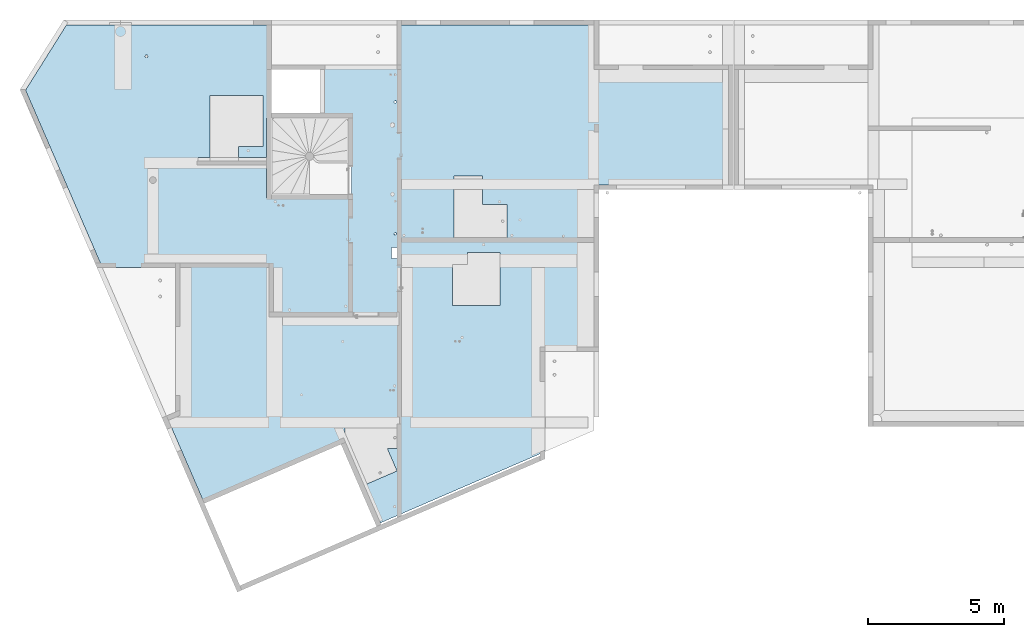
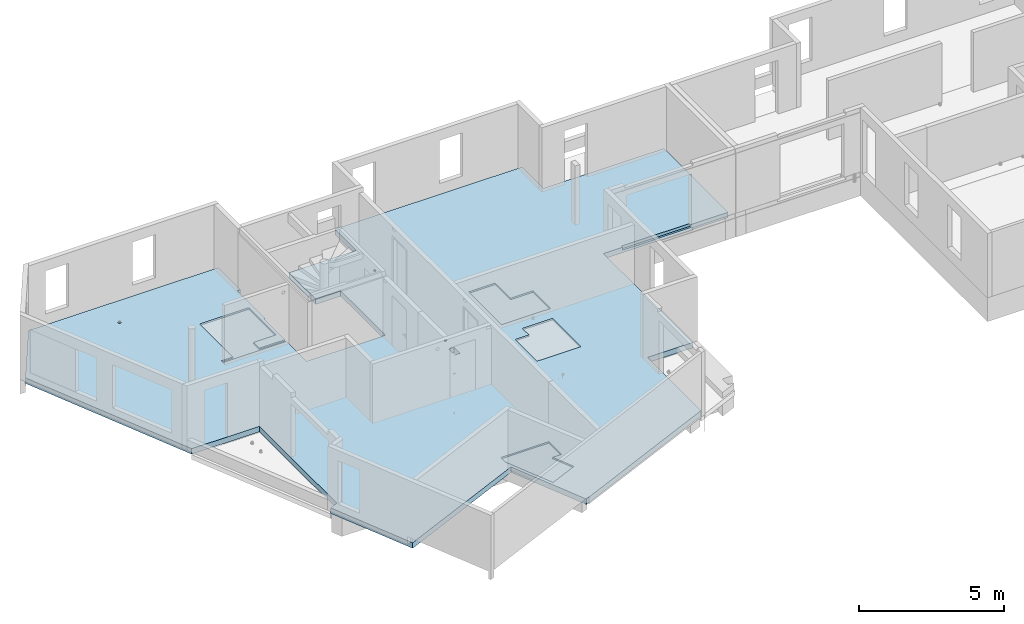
# One storey, part 24 of 34: 1 slab.
"""IFC2X3 building model written with IfcOpenShell, lengths in centimetres."""

from ifc_helpers import new_model, entity, si_unit, converted_unit, derived_unit, direction, frame, origin, place, context, subcontext, project, spatial, faceted_brep, material, element, save


model = new_model("IFC2X3")

# Units and contexts
model_context = context("Model", 3, precision=0.001, world=origin(), true_north=direction((6.12303176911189e-17, 1.0)))
body_context = subcontext(model_context, "Body", "Model", "MODEL_VIEW")
ifc_project = project(units=[si_unit("LENGTHUNIT", "METRE", prefix="CENTI"), si_unit("AREAUNIT", "SQUARE_METRE"), si_unit("VOLUMEUNIT", "CUBIC_METRE"), converted_unit("PLANEANGLEUNIT", "DEGREE", entity("IfcRatioMeasure", 0.0174532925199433), si_unit("PLANEANGLEUNIT", "RADIAN"), dimensions=[0, 0, 0, 0, 0, 0, 0]), si_unit("MASSUNIT", "GRAM", prefix="KILO"), derived_unit("MASSDENSITYUNIT", [(si_unit("MASSUNIT", "GRAM", prefix="KILO"), 1), (si_unit("LENGTHUNIT", "METRE"), -3)]), si_unit("TIMEUNIT", "SECOND"), si_unit("FREQUENCYUNIT", "HERTZ"), si_unit("THERMODYNAMICTEMPERATUREUNIT", "DEGREE_CELSIUS"), derived_unit("THERMALTRANSMITTANCEUNIT", [(si_unit("MASSUNIT", "GRAM", prefix="KILO"), 1), (si_unit("THERMODYNAMICTEMPERATUREUNIT", "KELVIN"), -1), (si_unit("TIMEUNIT", "SECOND"), -3)]), derived_unit("VOLUMETRICFLOWRATEUNIT", [(si_unit("LENGTHUNIT", "METRE"), 3), (si_unit("TIMEUNIT", "SECOND"), -1)]), si_unit("ELECTRICCURRENTUNIT", "AMPERE"), si_unit("ELECTRICVOLTAGEUNIT", "VOLT"), si_unit("POWERUNIT", "WATT"), si_unit("FORCEUNIT", "NEWTON"), si_unit("ILLUMINANCEUNIT", "LUX"), si_unit("LUMINOUSFLUXUNIT", "LUMEN"), si_unit("LUMINOUSINTENSITYUNIT", "CANDELA"), derived_unit("USERDEFINED", [(si_unit("MASSUNIT", "GRAM", prefix="KILO"), -1), (si_unit("LENGTHUNIT", "METRE"), -2), (si_unit("TIMEUNIT", "SECOND"), 3), (si_unit("LUMINOUSFLUXUNIT", "LUMEN"), 1)]), derived_unit("LINEARVELOCITYUNIT", [(si_unit("LENGTHUNIT", "METRE"), 1), (si_unit("TIMEUNIT", "SECOND"), -1)]), si_unit("PRESSUREUNIT", "PASCAL"), derived_unit("USERDEFINED", [(si_unit("LENGTHUNIT", "METRE"), -2), (si_unit("MASSUNIT", "GRAM", prefix="KILO"), 1), (si_unit("TIMEUNIT", "SECOND"), -2)])], contexts=[model_context])

# Site, building, storey
site_placement = place(None, origin())
site = spatial("IfcSite", under=ifc_project, at=site_placement, Name="Default", CompositionType="ELEMENT")
building_placement = place(site_placement, origin())
building = spatial("IfcBuilding", under=site, at=building_placement, Name="CAGE 03", CompositionType="ELEMENT")
storey_placement = place(building_placement, frame((0.0, 0.0, 340.0)))
storey = spatial("IfcBuildingStorey", under=building, at=storey_placement, Name="R+1", CompositionType="ELEMENT", Elevation=340.0)

# Slab
ifc_material = material(Name="Béton, C25/30")
slab_placement = place(storey_placement, origin())
element("IfcSlab", 1, at=slab_placement, inside=storey, material=ifc_material, Name="Sol:Dalle Béton - 23 cm", ObjectType="Sol:Dalle Béton - 23 cm", PredefinedType="FLOOR", context=body_context, shape_type="Brep", body=[
    faceted_brep([(3447.36582014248, 4787.16066607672, -5.0), (3447.36582014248, 4787.16066607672, 0.0), (3402.36582014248, 4787.16066607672, 0.0), (3402.36582014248, 4787.16066607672, -5.0), (3654.36582014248, 4787.16066607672, -5.0), (3654.36582014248, 4787.16066607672, 0.0), (3552.36582014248, 4787.16066607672, 0.0), (3552.36582014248, 4787.16066607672, -5.0), (3447.36582014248, 4775.16066607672, -5.0), (3402.36582014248, 4775.16066607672, -5.0), (3654.36582014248, 4775.16066607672, -5.0), (3552.36582014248, 4775.16066607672, -5.0), (4838.36582014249, 5275.66066607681, -23.0), (4878.36582014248, 5275.66066607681, -23.0), (4878.36582014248, 5128.66066607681, -23.0), (4860.36582014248, 4686.66066607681, -23.0), (4370.36582014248, 5275.66066607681, -23.0), (5333.36582014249, 5128.66066607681, -23.0), (5355.36582014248, 4891.66066607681, -23.0), (4134.36582014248, 5128.66066607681, -23.0), (4152.36582014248, 5275.66066607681, -23.0), (4352.36582014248, 5275.66066607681, -23.0), (4143.36582014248, 5275.66066607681, -23.0), (4134.36582014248, 5275.66066607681, -23.0), (4134.36582014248, 4991.66066607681, -23.0), (4127.64195500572, 4997.02276959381, -23.0), (4126.57292128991, 4995.68224371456, -23.0), (4133.52533700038, 4992.33092901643, -23.0), (4134.36582014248, 4506.16066607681, -23.0), (4130.08968527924, 4986.29856255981, -23.0), (4131.15871899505, 4987.63908843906, -23.0), (3966.86582014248, 4932.66066607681, -23.0), (4123.36582014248, 4991.66066607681, -23.0), (4124.20630328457, 4990.99040313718, -23.0), (3966.86582014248, 4945.16066607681, -23.0), (3867.36582014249, 5110.66066607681, -23.0), (3867.36582014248, 4950.66066607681, -23.0), (3870.36582014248, 5128.66066607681, -23.0), (3867.36582014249, 5128.66066607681, -23.0), (3867.36582014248, 4945.16066607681, -23.0), (3966.86582014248, 4638.16066607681, -23.0), (5355.36582014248, 5128.66066607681, -23.0), (3659.86582014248, 5123.16066607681, -23.0), (3218.20611734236, 5159.70027840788, -23.0), (3654.36582014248, 5275.66066607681, -23.0), (3217.51861734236, 5160.89106333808, -23.0), (3672.36582014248, 5275.66066607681, -23.0), (3672.36582014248, 5128.66066607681, -23.0), (3215.45611734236, 5164.46341812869, -23.0), (3157.36582014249, 5275.66066607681, -23.0), (3077.36582014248, 5275.66066607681, -23.0), (2774.31409406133, 5019.16066607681, -23.0), (2918.20488781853, 5275.66066607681, -23.0), (3207.20611734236, 5159.70027840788, -23.0), (3095.36582014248, 5275.66066607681, -23.0), (3209.95611734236, 5164.46341812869, -23.0), (3209.09714434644, 5162.97563325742, -23.0), (3214.08111734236, 5164.46341812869, -23.0), (3207.89361734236, 5158.50949347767, -23.0), (3659.86582014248, 5110.66066607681, -23.0), (3672.36582014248, 5123.16066607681, -23.0), (3659.86582014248, 4932.66066607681, -23.0), (3654.36582014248, 4932.66066607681, -23.0), (3215.45611734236, 5154.93713868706, -23.0), (3216.14361734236, 5156.12792361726, -23.0), (2768.43975786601, 5037.16066607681, -23.0), (2767.3065813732, 5035.35608984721, -23.0), (3204.36582014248, 4381.66066607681, -23.0), (3209.95611734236, 5154.93713868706, -23.0), (3211.33111734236, 5154.93713868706, -23.0), (3042.36228914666, 4399.66066607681, -23.0), (3654.36582014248, 4899.66066607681, -23.0), (3654.36582014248, 4881.66066607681, -23.0), (5355.36582014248, 4686.66066607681, -23.0), (5333.36582014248, 4686.66066607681, -23.0), (4878.36582014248, 4686.66066607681, -23.0), (4913.36582014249, 4686.66066607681, -23.0), (4133.52533700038, 4506.83092901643, -23.0), (4860.36582014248, 4668.66066607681, -23.0), (4134.36582014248, 4456.16066607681, -23.0), (4130.08968527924, 4500.79856255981, -23.0), (4131.15871899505, 4502.13908843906, -23.0), (4114.36582014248, 4456.16066607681, -23.0), (4123.36582014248, 4506.16066607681, -23.0), (4124.20630328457, 4505.49040313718, -23.0), (4127.64195500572, 4511.52276959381, -23.0), (4126.57292128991, 4510.18224371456, -23.0), (4680.36582014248, 4072.16066607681, -23.0), (4798.36582014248, 4072.16066607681, -23.0), (4680.36582014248, 3791.66066607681, -23.0), (3945.61710790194, 3738.67234493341, -23.0), (4680.36582014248, 3831.66066607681, -23.0), (4680.36582014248, 3710.09586129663, -23.0), (4134.36582014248, 4416.16066607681, -23.0), (4114.36582014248, 4416.16066607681, -23.0), (3954.36582014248, 4638.16066607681, -23.0), (4680.36582014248, 3704.10309177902, -23.0), (4071.89688626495, 3446.82064016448, -23.0), (4860.36582014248, 4072.16066607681, -23.0), (3318.86582014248, 4381.66066607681, -23.0), (3654.36582014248, 4787.16066607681, -23.0), (3654.36582014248, 4747.16066607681, -23.0), (3672.36582014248, 4638.16066607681, -23.0), (3654.36582014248, 4638.16066607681, -23.0), (3186.36582014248, 4381.66066607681, -23.0), (3050.15061442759, 4381.66066607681, -23.0), (3445.88989643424, 3522.44800745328, -23.0), (3318.86582014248, 3849.93428297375, -23.0), (3929.09720008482, 3731.5244329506, -23.0), (3425.6988979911, 3513.7116705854, -23.0), (3413.78571135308, 3541.24485028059, -23.0), (3286.31461432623, 3835.84987301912, -23.0), (3288.12722023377, 3831.66066607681, -23.0), (3305.43460974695, 3791.66066607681, -23.0), (4074.08097048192, 3441.7728905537, -23.0), (4125.5038875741, 4994.34171783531, -23.0), (4124.43485385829, 4993.00119195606, -23.0), (4132.68485385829, 4993.00119195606, -23.0), (4131.84437071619, 4993.67145489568, -23.0), (4131.0038875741, 4994.34171783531, -23.0), (4130.163404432, 4995.01198077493, -23.0), (4129.32292128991, 4995.68224371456, -23.0), (4128.48243814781, 4996.35250665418, -23.0), (4132.22775271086, 4988.97961431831, -23.0), (4133.29678642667, 4990.32014019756, -23.0), (4125.04678642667, 4990.32014019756, -23.0), (4125.88726956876, 4989.64987725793, -23.0), (4126.72775271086, 4988.97961431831, -23.0), (4127.56823585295, 4988.30935137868, -23.0), (4128.40871899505, 4987.63908843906, -23.0), (4129.24920213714, 4986.96882549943, -23.0), (3216.83111734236, 5162.08184826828, -23.0), (3216.14361734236, 5163.27263319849, -23.0), (3208.23817135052, 5161.48784838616, -23.0), (3207.72214434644, 5160.59406339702, -23.0), (3212.70611734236, 5164.46341812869, -23.0), (3211.33111734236, 5164.46341812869, -23.0), (3208.58111734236, 5157.31870854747, -23.0), (3209.26861734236, 5156.12792361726, -23.0), (3216.83111734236, 5157.31870854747, -23.0), (3217.51861734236, 5158.50949347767, -23.0), (3212.70611734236, 5154.93713868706, -23.0), (3214.08111734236, 5154.93713868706, -23.0), (4132.68485385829, 4507.50119195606, -23.0), (4131.84437071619, 4508.17145489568, -23.0), (4131.0038875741, 4508.84171783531, -23.0), (4130.163404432, 4509.51198077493, -23.0), (4129.32292128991, 4510.18224371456, -23.0), (4128.48243814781, 4510.85250665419, -23.0), (4132.22775271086, 4503.47961431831, -23.0), (4133.29678642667, 4504.82014019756, -23.0), (4125.04678642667, 4504.82014019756, -23.0), (4125.88726956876, 4504.14987725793, -23.0), (4126.72775271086, 4503.47961431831, -23.0), (4127.56823585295, 4502.80935137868, -23.0), (4128.40871899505, 4502.13908843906, -23.0), (4129.24920213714, 4501.46882549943, -23.0), (4125.5038875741, 4508.84171783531, -23.0), (4124.43485385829, 4507.50119195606, -23.0), (4134.36582014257, 3716.69373951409, 0.0), (4680.36582014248, 3704.10309177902, 0.0), (4680.36582014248, 3708.16066607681, 0.0), (4680.36582014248, 3710.09586129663, 0.0), (4860.36582014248, 4474.66066607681, 0.0), (4680.36582014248, 4072.16066607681, 0.0), (4798.36582014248, 4072.16066607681, 0.0), (4680.36582014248, 3791.66066607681, 0.0), (4134.36582014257, 3804.66066607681, 0.0), (4680.36582014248, 3831.66066607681, 0.0), (4135.06536861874, 3633.23346922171, 0.0), (4098.95338344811, 3716.69373951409, 0.0), (4680.36582014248, 3963.16066607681, 0.0), (4514.86582014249, 4242.66066607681, 0.0), (4339.86582014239, 4242.66066607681, 0.0), (4114.36582014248, 4416.16066607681, 0.0), (4860.36582014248, 4072.16066607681, 0.0), (4074.08097048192, 3441.7728905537, 0.0), (4860.36582014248, 4492.66066607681, 0.0), (4860.36582014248, 4668.66066607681, 0.0), (4539.37079311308, 4614.66066607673, 0.0), (4539.37079311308, 4492.66066607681, 0.0), (4913.36582014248, 4686.66066607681, 0.0), (4935.36582014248, 4686.66066607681, 0.0), (4935.36582014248, 4694.66066607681, 0.0), (4860.36582014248, 4686.66066607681, 0.0), (4878.36582014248, 4686.66066607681, 0.0), (4878.36582014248, 5128.66066607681, 0.0), (4394.86582014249, 4437.66066607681, 0.0), (4514.86582014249, 4437.66066607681, 0.0), (4339.86582014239, 4392.66066607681, 0.0), (4394.86582014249, 4392.66066607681, 0.0), (4344.37079311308, 4492.66066607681, 0.0), (4130.08968527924, 4511.52276959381, 0.0), (4344.37079311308, 4719.66066607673, 0.0), (4449.37079311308, 4614.66066607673, 0.0), (4449.37079311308, 4719.66066607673, 0.0), (4134.36582014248, 4416.16066607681, 0.0), (4134.36582014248, 4456.16066607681, 0.0), (4024.93264983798, 3585.58072266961, 0.0), (4071.89688626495, 3446.82064016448, 0.0), (3945.61710790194, 3738.67234493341, 0.0), (3943.97809060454, 3772.67897725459, 0.0), (3943.97809060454, 3804.66066607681, 0.0), (3929.09720008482, 3731.5244329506, 0.0), (3418.55098600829, 3530.23157840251, 0.0), (3425.6988979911, 3513.7116705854, 0.0), (3413.78571135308, 3541.24485028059, 0.0), (3318.86582014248, 3849.93428297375, 0.0), (3318.86582014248, 3910.66066607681, 0.0), (3286.31461432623, 3835.84987301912, 0.0), (3318.86582014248, 4165.66066607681, 0.0), (4114.36582014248, 4456.16066607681, 0.0), (4127.64195500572, 4500.79856255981, 0.0), (4131.15871899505, 4510.18224371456, 0.0), (4126.57292128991, 4502.13908843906, 0.0), (3966.86582014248, 4638.16066607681, 0.0), (4123.36582014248, 4506.16066607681, 0.0), (4124.20630328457, 4506.83092901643, 0.0), (4134.36582014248, 4506.16066607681, 0.0), (4133.52533700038, 4505.49040313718, 0.0), (3402.36582014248, 4775.16066607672, 0.0), (3050.15061442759, 4381.66066607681, 0.0), (3318.86582014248, 4381.66066607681, 0.0), (3672.36582014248, 4638.16066607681, 0.0), (3954.36582014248, 4638.16066607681, 0.0), (3654.36582014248, 4638.16066607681, 0.0), (3447.36582014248, 4775.16066607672, 0.0), (5333.36582014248, 4686.66066607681, 0.0), (5355.36582014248, 4686.66066607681, 0.0), (5355.36582014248, 4891.66066607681, 0.0), (5206.36582014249, 4686.66066607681, 0.0), (5206.36582014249, 4694.66066607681, 0.0), (4950.36582014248, 5128.66066607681, 0.0), (4134.36582014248, 4991.66066607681, 0.0), (3966.86582014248, 4932.66066607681, 0.0), (4123.36582014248, 4991.66066607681, 0.0), (3966.86582014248, 4945.16066607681, 0.0), (4127.64195500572, 4986.29856255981, 0.0), (3867.36582014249, 5110.66066607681, 0.0), (3867.36582014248, 4950.66066607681, 0.0), (4133.52533700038, 4990.99040313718, 0.0), (3867.36582014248, 4945.16066607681, 0.0), (4134.36582014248, 5128.66066607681, 0.0), (4126.57292128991, 4987.63908843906, 0.0), (5225.36582014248, 5128.66066607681, 0.0), (5355.36582014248, 5128.66066607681, 0.0), (5355.36582014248, 5110.66066607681, 0.0), (4143.36582014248, 5275.66066607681, 0.0), (4878.36582014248, 5275.66066607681, 0.0), (4124.20630328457, 4992.33092901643, 0.0), (4130.08968527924, 4997.02276959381, 0.0), (4131.15871899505, 4995.68224371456, 0.0), (4134.36582014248, 5275.66066607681, 0.0), (3867.36582014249, 5128.66066607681, 0.0), (3672.36582014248, 5123.16066607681, 0.0), (3672.36582014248, 5128.66066607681, 0.0), (3659.86582014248, 5123.16066607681, 0.0), (3552.36582014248, 4775.16066607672, 0.0), (3654.36582014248, 4759.16066607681, 0.0), (3654.36582014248, 4775.16066607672, 0.0), (3654.36582014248, 4932.66066607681, 0.0), (3642.36582014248, 4827.16066607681, 0.0), (3659.86582014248, 4932.66066607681, 0.0), (3642.36582014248, 5015.1606660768, 0.0), (3447.36582014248, 5015.1606660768, 0.0), (3215.45611734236, 5154.93713868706, 0.0), (3552.36582014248, 4827.16066607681, 0.0), (2767.3065813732, 5035.35608984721, 0.0), (3659.86582014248, 5110.66066607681, 0.0), (3218.20611734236, 5159.70027840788, 0.0), (3217.69009032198, 5158.8064933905, 0.0), (3606.36582014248, 5275.66066607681, 0.0), (3214.08111734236, 5154.93713868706, 0.0), (3654.36582014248, 5275.66066607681, 0.0), (3215.45611734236, 5164.46341812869, 0.0), (3216.14361734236, 5163.27263319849, 0.0), (3077.36582014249, 5275.66066607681, 0.0), (3207.20611734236, 5159.70027840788, 0.0), (3209.95611734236, 5154.93713868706, 0.0), (3209.26861734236, 5156.12792361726, 0.0), (3157.36582014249, 5275.66066607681, 0.0), (3209.95611734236, 5164.46341812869, 0.0), (3211.33111734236, 5164.46341812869, 0.0), (2918.20488781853, 5275.66066607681, 0.0), (3207.89361734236, 5160.89106333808, 0.0), (3672.36582014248, 5275.66066607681, 0.0), (4132.22775271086, 4508.84171783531, 0.0), (4133.29678642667, 4507.50119195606, 0.0), (4125.5038875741, 4503.47961431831, 0.0), (4124.43485385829, 4504.82014019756, 0.0), (4125.04678642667, 4507.50119195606, 0.0), (4125.88726956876, 4508.17145489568, 0.0), (4126.72775271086, 4508.84171783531, 0.0), (4127.56823585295, 4509.51198077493, 0.0), (4128.40871899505, 4510.18224371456, 0.0), (4129.24920213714, 4510.85250665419, 0.0), (4132.68485385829, 4504.82014019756, 0.0), (4131.84437071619, 4504.14987725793, 0.0), (4131.0038875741, 4503.47961431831, 0.0), (4130.163404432, 4502.80935137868, 0.0), (4129.32292128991, 4502.13908843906, 0.0), (4128.48243814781, 4501.46882549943, 0.0), (4132.68485385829, 4990.32014019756, 0.0), (4131.84437071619, 4989.64987725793, 0.0), (4131.0038875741, 4988.97961431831, 0.0), (4130.163404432, 4988.30935137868, 0.0), (4129.32292128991, 4987.63908843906, 0.0), (4128.48243814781, 4986.96882549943, 0.0), (4125.5038875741, 4988.97961431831, 0.0), (4124.43485385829, 4990.32014019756, 0.0), (4125.04678642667, 4993.00119195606, 0.0), (4125.88726956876, 4993.67145489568, 0.0), (4126.72775271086, 4994.34171783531, 0.0), (4127.56823585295, 4995.01198077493, 0.0), (4128.40871899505, 4995.68224371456, 0.0), (4129.24920213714, 4996.35250665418, 0.0), (4132.22775271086, 4994.34171783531, 0.0), (4133.29678642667, 4993.00119195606, 0.0), (3216.83111734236, 5157.31870854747, 0.0), (3216.14361734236, 5156.12792361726, 0.0), (3212.70611734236, 5154.93713868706, 0.0), (3211.33111734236, 5154.93713868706, 0.0), (3216.83111734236, 5162.08184826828, 0.0), (3217.69009033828, 5160.59406339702, 0.0), (3208.58111734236, 5157.31870854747, 0.0), (3207.72214434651, 5158.80649341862, 0.0), (3212.70611734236, 5164.46341812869, 0.0), (3214.08111734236, 5164.46341812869, 0.0), (3208.58111734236, 5162.08184826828, 0.0), (3209.26861734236, 5163.27263319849, 0.0), (4134.36582014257, 3716.69373951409, -6.0), (4134.36582014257, 3804.66066607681, -6.0), (5206.36582014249, 4686.66066607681, -12.0), (4935.36582014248, 4686.66066607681, -12.0), (5206.36582014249, 4694.66066607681, -12.0), (4935.36582014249, 4694.66066607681, -12.0), (3552.36582014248, 4775.16066607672, -6.0), (3447.36582014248, 4775.16066607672, -6.0), (4024.93264983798, 3585.58072266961, -6.0), (4135.06536861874, 3633.23346922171, -6.0), (4098.95338344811, 3716.69373951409, -6.0), (3943.97809060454, 3804.66066607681, -6.0), (3943.97809060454, 3772.67897725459, -6.0), (3552.36582014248, 4827.16066607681, -6.0), (3642.36582014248, 4827.16066607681, -6.0), (3642.36582014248, 5015.1606660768, -6.0), (3447.36582014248, 5015.1606660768, -6.0), (4339.86582014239, 4392.66066607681, -6.0), (4339.86582014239, 4242.66066607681, -6.0), (4514.86582014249, 4242.66066607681, -6.0), (4514.86582014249, 4437.66066607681, -6.0), (4394.86582014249, 4437.66066607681, -6.0), (4394.86582014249, 4392.66066607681, -6.0), (4449.37079311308, 4614.66066607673, -6.0), (4449.37079311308, 4719.66066607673, -6.0), (4344.37079311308, 4719.66066607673, -6.0), (4344.37079311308, 4492.66066607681, -6.0), (4539.37079311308, 4492.66066607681, -6.0), (4539.37079311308, 4614.66066607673, -6.0)], [[[0, 1, 2, 3]], [[4, 5, 6, 7]], [[8, 0, 3, 9]], [[10, 4, 7, 11]], [[12, 13, 14]], [[15, 16, 14]], [[14, 17, 18]], [[12, 14, 16]], [[19, 20, 21]], [[19, 22, 20]], [[22, 19, 23]], [[24, 21, 16]], [[24, 16, 15]], [[19, 25, 26]], [[19, 24, 27]], [[28, 29, 30]], [[31, 32, 33]], [[19, 21, 24]], [[19, 32, 34]], [[35, 34, 36]], [[35, 37, 19]], [[37, 35, 38]], [[34, 39, 36]], [[31, 34, 32]], [[19, 34, 35]], [[31, 29, 40]], [[17, 41, 18]], [[42, 43, 44]], [[44, 43, 45]], [[44, 46, 47]], [[44, 48, 49]], [[50, 51, 52]], [[53, 50, 54]], [[49, 55, 56]], [[49, 48, 57]], [[49, 53, 54]], [[53, 51, 50]], [[51, 53, 58]], [[59, 43, 42]], [[42, 47, 60]], [[59, 61, 62]], [[59, 63, 64]], [[65, 51, 66]], [[65, 52, 51]], [[67, 68, 69]], [[68, 70, 51]], [[71, 63, 62]], [[71, 72, 63]], [[63, 59, 62]], [[42, 44, 47]], [[18, 73, 74]], [[75, 14, 76]], [[74, 76, 18]], [[75, 15, 14]], [[29, 28, 77]], [[28, 15, 78]], [[15, 28, 24]], [[79, 80, 81]], [[82, 83, 84]], [[79, 28, 78]], [[40, 85, 86]], [[29, 85, 40]], [[87, 78, 88]], [[89, 90, 91]], [[92, 90, 89]], [[93, 79, 87]], [[79, 82, 80]], [[94, 93, 90]], [[87, 90, 93]], [[87, 91, 90]], [[78, 87, 79]], [[82, 94, 95]], [[92, 96, 97]], [[88, 78, 98]], [[83, 82, 40]], [[99, 100, 101]], [[102, 95, 94]], [[99, 101, 103]], [[102, 99, 103]], [[68, 104, 70]], [[100, 99, 63]], [[72, 100, 63]], [[104, 105, 70]], [[104, 68, 67]], [[63, 99, 67]], [[40, 82, 95]], [[102, 94, 99]], [[106, 107, 108]], [[90, 108, 94]], [[97, 90, 92]], [[109, 110, 106]], [[99, 108, 107]], [[111, 107, 112]], [[113, 112, 107]], [[113, 107, 106]], [[110, 113, 106]], [[94, 108, 99]], [[96, 114, 97]], [[18, 76, 14]], [[19, 26, 115]], [[19, 115, 116]], [[19, 116, 32]], [[19, 27, 117]], [[19, 117, 118]], [[19, 118, 119]], [[19, 119, 120]], [[19, 120, 121]], [[19, 121, 122]], [[19, 122, 25]], [[28, 30, 123]], [[28, 123, 124]], [[28, 124, 24]], [[31, 33, 125]], [[31, 125, 126]], [[31, 126, 127]], [[31, 127, 128]], [[31, 128, 129]], [[31, 129, 130]], [[31, 130, 29]], [[44, 45, 131]], [[44, 131, 132]], [[44, 132, 48]], [[49, 56, 133]], [[49, 133, 134]], [[49, 134, 53]], [[49, 57, 135]], [[49, 135, 136]], [[49, 136, 55]], [[51, 58, 137]], [[51, 137, 138]], [[51, 138, 68]], [[59, 64, 139]], [[59, 139, 140]], [[59, 140, 43]], [[67, 69, 141]], [[67, 141, 142]], [[67, 142, 63]], [[29, 77, 143]], [[29, 143, 144]], [[29, 144, 145]], [[29, 145, 146]], [[29, 146, 147]], [[29, 147, 148]], [[29, 148, 85]], [[79, 81, 149]], [[79, 149, 150]], [[79, 150, 28]], [[82, 84, 151]], [[82, 151, 152]], [[82, 152, 153]], [[82, 153, 154]], [[82, 154, 155]], [[82, 155, 156]], [[82, 156, 80]], [[40, 86, 157]], [[40, 157, 158]], [[40, 158, 83]], [[159, 160, 161]], [[162, 159, 161]], [[163, 164, 165]], [[159, 162, 166]], [[167, 166, 168]], [[166, 167, 159]], [[159, 169, 160]], [[169, 159, 170]], [[171, 164, 172]], [[172, 173, 171]], [[172, 164, 163]], [[171, 173, 167]], [[171, 167, 168]], [[174, 167, 173]], [[165, 175, 163]], [[160, 169, 176]], [[177, 178, 179]], [[163, 177, 180]], [[181, 182, 183]], [[184, 185, 186]], [[181, 183, 185]], [[178, 184, 179]], [[187, 188, 180]], [[189, 190, 187]], [[187, 191, 189]], [[179, 180, 177]], [[192, 191, 193]], [[187, 180, 191]], [[194, 179, 195]], [[188, 163, 180]], [[196, 173, 189]], [[188, 172, 163]], [[197, 189, 191]], [[169, 198, 199]], [[199, 176, 169]], [[199, 198, 200]], [[198, 201, 200]], [[201, 202, 203]], [[200, 201, 203]], [[204, 205, 203]], [[206, 204, 203]], [[202, 207, 203]], [[207, 202, 208]], [[209, 206, 207]], [[207, 206, 203]], [[202, 210, 208]], [[197, 196, 189]], [[211, 197, 212]], [[191, 192, 213]], [[211, 212, 214]], [[215, 216, 217]], [[197, 218, 219]], [[197, 191, 218]], [[211, 216, 215]], [[220, 221, 222]], [[210, 223, 222]], [[223, 210, 174]], [[210, 202, 174]], [[224, 174, 211]], [[225, 222, 223]], [[223, 174, 224]], [[211, 215, 224]], [[226, 222, 225]], [[215, 192, 193]], [[202, 167, 174]], [[196, 174, 173]], [[195, 179, 184]], [[227, 228, 229]], [[230, 227, 231]], [[183, 231, 232]], [[229, 231, 227]], [[195, 233, 193]], [[186, 195, 184]], [[234, 235, 236]], [[234, 215, 237]], [[238, 239, 236]], [[193, 233, 240]], [[241, 236, 239]], [[236, 235, 242]], [[234, 237, 243]], [[244, 231, 229]], [[185, 183, 186]], [[232, 186, 183]], [[231, 244, 232]], [[186, 242, 195]], [[245, 244, 246]], [[247, 186, 248]], [[186, 247, 242]], [[242, 235, 249]], [[242, 250, 251]], [[242, 238, 236]], [[252, 242, 247]], [[242, 253, 238]], [[195, 242, 233]], [[254, 255, 256]], [[229, 246, 244]], [[257, 258, 259]], [[260, 261, 5]], [[260, 262, 263]], [[263, 261, 260]], [[261, 6, 5]], [[222, 226, 220]], [[225, 257, 226]], [[2, 264, 265]], [[264, 2, 1]], [[261, 266, 6]], [[220, 2, 267]], [[263, 268, 264]], [[225, 258, 257]], [[264, 269, 270]], [[256, 271, 264]], [[2, 265, 272]], [[271, 256, 273]], [[271, 274, 275]], [[264, 271, 269]], [[256, 255, 273]], [[268, 263, 262]], [[276, 267, 277]], [[267, 278, 279]], [[267, 2, 278]], [[280, 276, 277]], [[280, 281, 282]], [[283, 267, 276]], [[280, 277, 284]], [[274, 271, 280]], [[268, 256, 264]], [[255, 285, 273]], [[220, 267, 221]], [[215, 193, 237]], [[191, 213, 286]], [[191, 286, 287]], [[191, 287, 218]], [[211, 214, 288]], [[211, 288, 289]], [[211, 289, 216]], [[215, 217, 290]], [[215, 290, 291]], [[215, 291, 292]], [[215, 292, 293]], [[215, 293, 294]], [[215, 294, 295]], [[215, 295, 192]], [[197, 219, 296]], [[197, 296, 297]], [[197, 297, 298]], [[197, 298, 299]], [[197, 299, 300]], [[197, 300, 301]], [[197, 301, 212]], [[193, 240, 302]], [[193, 302, 303]], [[193, 303, 304]], [[193, 304, 305]], [[193, 305, 306]], [[193, 306, 307]], [[193, 307, 237]], [[234, 243, 308]], [[234, 308, 309]], [[234, 309, 235]], [[242, 249, 310]], [[242, 310, 311]], [[242, 311, 312]], [[242, 312, 313]], [[242, 313, 314]], [[242, 314, 315]], [[242, 315, 250]], [[242, 251, 316]], [[242, 316, 317]], [[242, 317, 233]], [[264, 270, 318]], [[264, 318, 319]], [[264, 319, 265]], [[2, 272, 320]], [[2, 320, 321]], [[2, 321, 278]], [[271, 275, 322]], [[271, 322, 323]], [[271, 323, 269]], [[267, 279, 324]], [[267, 324, 325]], [[267, 325, 277]], [[280, 282, 326]], [[280, 326, 327]], [[280, 327, 274]], [[280, 284, 328]], [[280, 328, 329]], [[280, 329, 281]], [[72, 71, 62, 260, 5, 4, 10, 259, 258, 225, 103, 101, 100]], [[102, 103, 225, 223, 224, 215, 40, 95]], [[31, 40, 215, 234, 236, 34]], [[39, 34, 236, 241]], [[36, 39, 241, 239, 238, 253, 38, 35]], [[37, 38, 253, 242, 19]], [[17, 14, 186, 232, 244, 245, 41]], [[23, 19, 242, 252]], [[330, 159, 167, 331]], [[93, 196, 197, 79]], [[20, 22, 23, 252, 247, 248, 13, 12, 16, 21]], [[54, 50, 52, 283, 276, 280, 271, 273, 285, 46, 44, 49]], [[14, 13, 248, 186]], [[18, 41, 245, 246, 229, 228, 73]], [[74, 73, 228, 227, 230, 332, 333, 182, 181, 185, 184, 15, 75, 76]], [[163, 175, 98, 78, 15, 184, 178, 177]], [[88, 98, 175, 165, 164, 87]], [[91, 87, 164, 171, 168, 166, 162, 161, 160, 96, 92, 89]], [[114, 96, 160, 176]], [[97, 114, 176, 199, 200, 90]], [[108, 90, 200, 203, 205, 109, 106]], [[110, 109, 205, 204, 206, 209, 111, 112, 113]], [[66, 51, 70, 105, 221, 267]], [[107, 111, 209, 207]], [[99, 107, 207, 208, 210, 222]], [[67, 99, 222, 221, 105, 104]], [[65, 66, 267, 283, 52]], [[47, 46, 285, 255, 254, 60]], [[42, 60, 254, 256]], [[334, 231, 183, 335]], [[334, 335, 333, 332]], [[333, 335, 183, 182]], [[334, 332, 230, 231]], [[3, 2, 220, 9]], [[8, 9, 220, 226, 257, 259, 10, 11, 336, 337]], [[338, 339, 340, 330, 331, 341, 342]], [[343, 344, 345, 346, 337, 336]], [[347, 348, 349, 350, 351, 352]], [[353, 354, 355, 356, 357, 358]], [[331, 167, 202, 341]], [[342, 341, 202, 201]], [[342, 201, 198, 338]], [[338, 198, 169, 339]], [[346, 345, 263, 264]], [[1, 0, 8, 337, 346, 264]], [[344, 261, 263, 345]], [[7, 6, 266, 343, 336, 11]], [[344, 343, 266, 261]], [[351, 350, 188, 187]], [[347, 189, 173, 348]], [[350, 349, 172, 188]], [[348, 173, 172, 349]], [[351, 187, 190, 352]], [[352, 190, 189, 347]], [[339, 169, 170, 340]], [[330, 340, 170, 159]], [[354, 195, 193, 355]], [[358, 357, 180, 179]], [[356, 191, 180, 357]], [[355, 193, 191, 356]], [[353, 358, 179, 194]], [[353, 194, 195, 354]], [[55, 281, 329, 328, 284, 277, 53, 134, 133, 56]], [[45, 43, 269, 323, 322, 275, 274, 48, 132, 131]], [[327, 326, 282, 281, 55, 136, 135, 57, 48, 274]], [[63, 265, 319, 318, 270, 269, 43, 140, 139, 64]], [[324, 279, 278, 68, 138, 137, 58, 53, 277, 325]], [[272, 265, 63, 142, 141, 69, 68, 278, 321, 320]], [[59, 42, 256, 268, 262, 61]], [[62, 61, 262, 260]], [[82, 211, 174, 94]], [[94, 174, 196, 93]], [[79, 197, 211, 82]], [[288, 214, 153]], [[301, 300, 299, 80]], [[150, 296, 219]], [[289, 151, 84]], [[298, 149, 81]], [[154, 214, 212]], [[301, 80, 156]], [[212, 156, 155, 154]], [[289, 288, 151]], [[219, 218, 28]], [[84, 83, 216]], [[301, 156, 212]], [[299, 298, 81]], [[150, 219, 28]], [[150, 149, 296]], [[289, 84, 216]], [[299, 81, 80]], [[297, 296, 149, 298]], [[152, 151, 288, 153]], [[154, 153, 214]], [[286, 143, 287]], [[85, 294, 293]], [[192, 295, 147]], [[158, 290, 217]], [[292, 157, 86]], [[192, 146, 213]], [[148, 147, 295]], [[295, 294, 148]], [[145, 213, 146]], [[286, 145, 144, 143]], [[143, 77, 287]], [[217, 216, 83]], [[293, 86, 85]], [[291, 290, 157, 292]], [[294, 85, 148]], [[293, 292, 86]], [[158, 217, 83]], [[145, 286, 213]], [[192, 147, 146]], [[287, 77, 218]], [[218, 77, 28]], [[158, 157, 290]], [[308, 243, 127]], [[307, 306, 305, 29]], [[124, 302, 240]], [[309, 125, 33]], [[304, 123, 30]], [[128, 243, 237]], [[307, 29, 130]], [[237, 130, 129, 128]], [[309, 308, 125]], [[240, 233, 24]], [[33, 32, 235]], [[307, 130, 237]], [[305, 304, 30]], [[124, 240, 24]], [[124, 123, 302]], [[309, 33, 235]], [[305, 30, 29]], [[303, 302, 123, 304]], [[126, 125, 308, 127]], [[128, 127, 243]], [[316, 117, 317]], [[25, 314, 313]], [[250, 315, 121]], [[116, 310, 249]], [[312, 115, 26]], [[250, 120, 251]], [[122, 121, 315]], [[315, 314, 122]], [[119, 251, 120]], [[316, 119, 118, 117]], [[117, 27, 317]], [[249, 235, 32]], [[313, 26, 25]], [[311, 310, 115, 312]], [[314, 25, 122]], [[313, 312, 26]], [[116, 249, 32]], [[119, 316, 251]], [[250, 121, 120]], [[317, 27, 233]], [[233, 27, 24]], [[116, 115, 310]]]),
])

save(model, "model.ifc")
